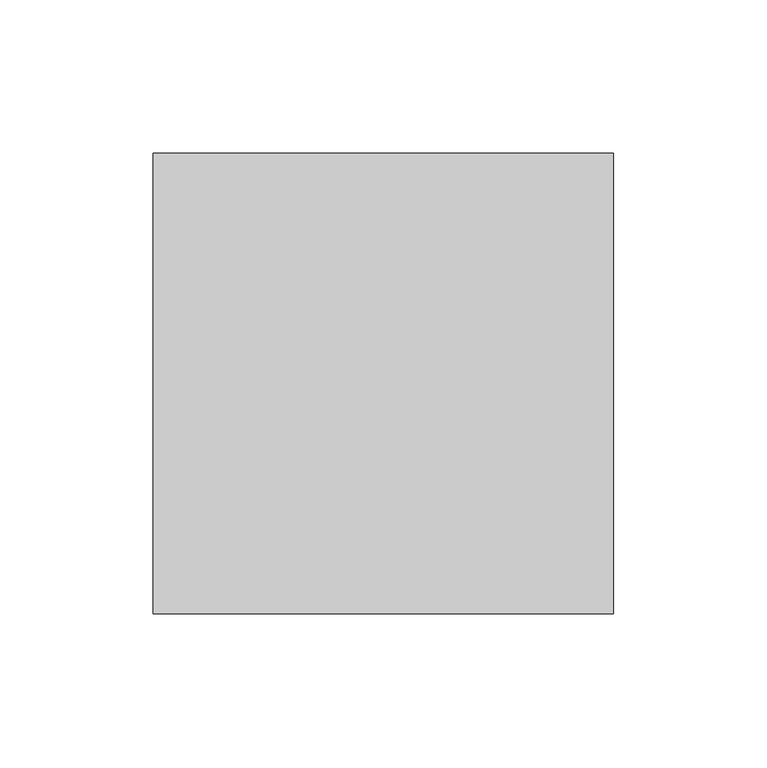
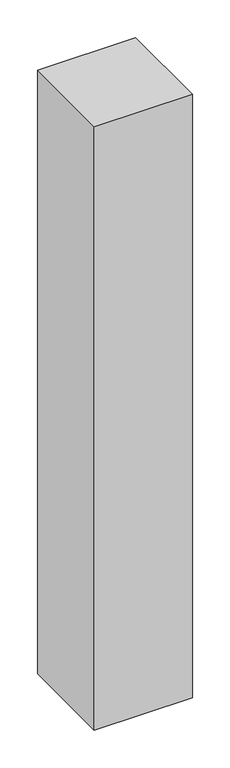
"""IFC4 building model written with IfcOpenShell, lengths in millimetres: member geometry, Угловой L-импост : Угловой L-импост."""

from ifc_helpers import new_model, si_unit, frame, origin, place, context, project, spatial, polyline, outline, extrude, source, transform, mapped, element, save


def member_200e714a(model_context):
    return source(origin(), model_context, "Body", "SweptSolid", [
        extrude(outline(polyline([(-75.0, -75.0), (-75.0, 75.0), (75.0, 75.0), (75.0, -75.0), (-75.0, -75.0)])), frame((0.0, 0.0, -975.0), z_axis=(0.0, 0.0, 1.0), x_axis=(1.0, 0.0, 0.0)), (0.0, 0.0, 1.0), 975.0),
    ])


if __name__ == "__main__":
    model = new_model("IFC4")
    model_context = context("Model", 3, world=origin())
    ifc_project = project(units=[si_unit("LENGTHUNIT", "METRE", prefix="MILLI")], contexts=[model_context])
    site = spatial("IfcSite", under=ifc_project)
    building = spatial("IfcBuilding", under=site)
    placement = place(None, origin())
    member_shape = member_200e714a(model_context)
    element("IfcMember", 1, ObjectType="Угловой L-импост : Угловой L-импост", at=placement, inside=building, context=model_context, shape_type="MappedRepresentation", body=[
        mapped(member_shape, transform((0.0, 0.0, 0.0), x_axis=(1.0, 0.0, 0.0), y_axis=(0.0, 1.0, 0.0), z_axis=(0.0, 0.0, 1.0))),
    ])
    save(model, "model.ifc")
